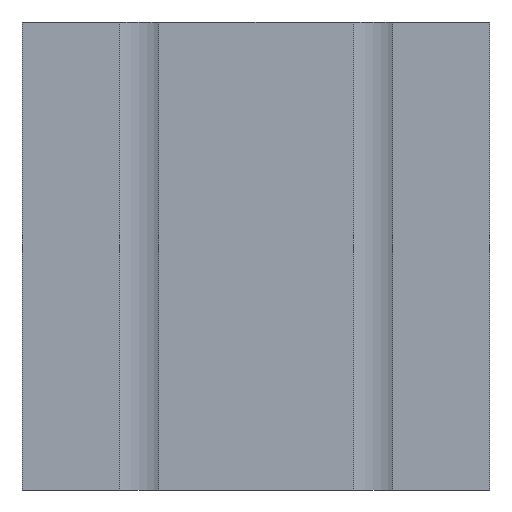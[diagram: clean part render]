
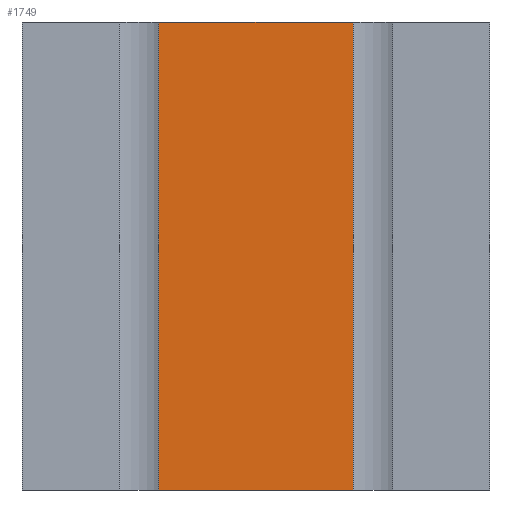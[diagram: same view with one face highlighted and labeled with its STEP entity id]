
A CAD part, front view. The second image highlights one B-rep face of the part: STEP entity #1749.
In plain terms, the highlighted planar face has unit normal (0, -1, 0).
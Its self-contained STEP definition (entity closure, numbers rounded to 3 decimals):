
#69=PLANE('',#1892);
#404=ORIENTED_EDGE('',*,*,#846,.T.);
#405=ORIENTED_EDGE('',*,*,#740,.F.);
#406=ORIENTED_EDGE('',*,*,#847,.F.);
#407=ORIENTED_EDGE('',*,*,#760,.F.);
#740=EDGE_CURVE('',#964,#965,#1128,.T.);
#760=EDGE_CURVE('',#978,#979,#1146,.T.);
#846=EDGE_CURVE('',#978,#965,#1218,.T.);
#847=EDGE_CURVE('',#979,#964,#1219,.T.);
#964=VERTEX_POINT('',#2619);
#965=VERTEX_POINT('',#2620);
#978=VERTEX_POINT('',#2658);
#979=VERTEX_POINT('',#2660);
#1128=LINE('',#2618,#1332);
#1146=LINE('',#2659,#1350);
#1218=LINE('',#2836,#1422);
#1219=LINE('',#2837,#1423);
#1332=VECTOR('',#2125,1000.);
#1350=VECTOR('',#2159,1000.);
#1422=VECTOR('',#2319,1000.);
#1423=VECTOR('',#2320,1000.);
#1523=EDGE_LOOP('',(#404,#405,#406,#407));
#1627=FACE_BOUND('',#1523,.T.);
#1749=ADVANCED_FACE('',(#1627),#69,.F.);
#1892=AXIS2_PLACEMENT_3D('',#2835,#2317,#2318);
#2125=DIRECTION('',(0.,0.,-1.));
#2159=DIRECTION('',(0.,0.,1.));
#2317=DIRECTION('',(0.,1.,0.));
#2318=DIRECTION('',(-1.,0.,0.));
#2319=DIRECTION('',(1.,0.,0.));
#2320=DIRECTION('',(1.,0.,0.));
#2618=CARTESIAN_POINT('',(20.75,-25.,229.129));
#2619=CARTESIAN_POINT('',(20.75,-25.,50.));
#2620=CARTESIAN_POINT('',(20.75,-25.,-50.));
#2658=CARTESIAN_POINT('',(-20.75,-25.,-50.));
#2659=CARTESIAN_POINT('',(-20.75,-25.,229.129));
#2660=CARTESIAN_POINT('',(-20.75,-25.,50.));
#2835=CARTESIAN_POINT('',(-50.,-25.,50.));
#2836=CARTESIAN_POINT('',(-50.,-25.,-50.));
#2837=CARTESIAN_POINT('',(-50.,-25.,50.));
